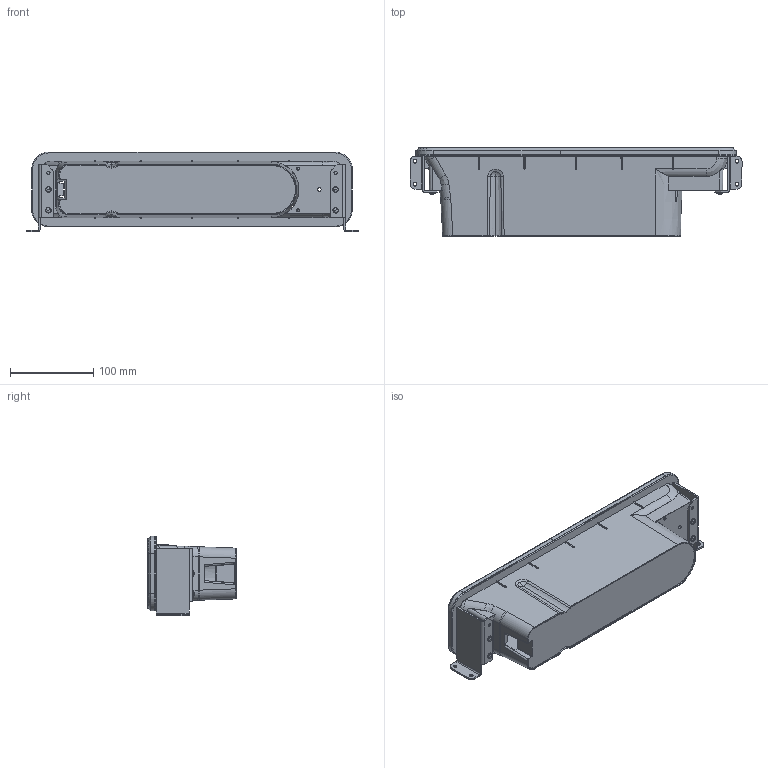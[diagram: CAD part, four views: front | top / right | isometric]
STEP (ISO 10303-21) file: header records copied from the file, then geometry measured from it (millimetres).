
FILE_DESCRIPTION (( 'STEP AP203' ), '1' );
FILE_NAME ('QikDoc Locate_Screw fix_1.STEP', '2022-08-24T15:02:05', ( '' ), ( '' ), 'SwSTEP 2.0', 'SolidWorks 2021', '' );
FILE_SCHEMA (( 'CONFIG_CONTROL_DESIGN' ));
Length unit declared in the file: millimetre
Products named in the file (1): QikDoc Locate_Screw fix_1
Bounding box: 398.7 x 106 x 96 mm (x, y, z)
Volume: 777851.2 mm3; surface area: 231291.4 mm2
Topology: 1 solids, 17 shells, 1868 faces, 4702 edges, 2725 vertices
Faces by surface type: cylinder 659, plane 521, bspline 458, sphere 106, torus 66, cone 58
Entity records: 67632 total; most frequent: CARTESIAN_POINT 27760, ORIENTED_EDGE 9226, DIRECTION 7428, EDGE_CURVE 4613, VERTEX_POINT 2723, AXIS2_PLACEMENT_3D 2648, VECTOR 2132, LINE 2132
